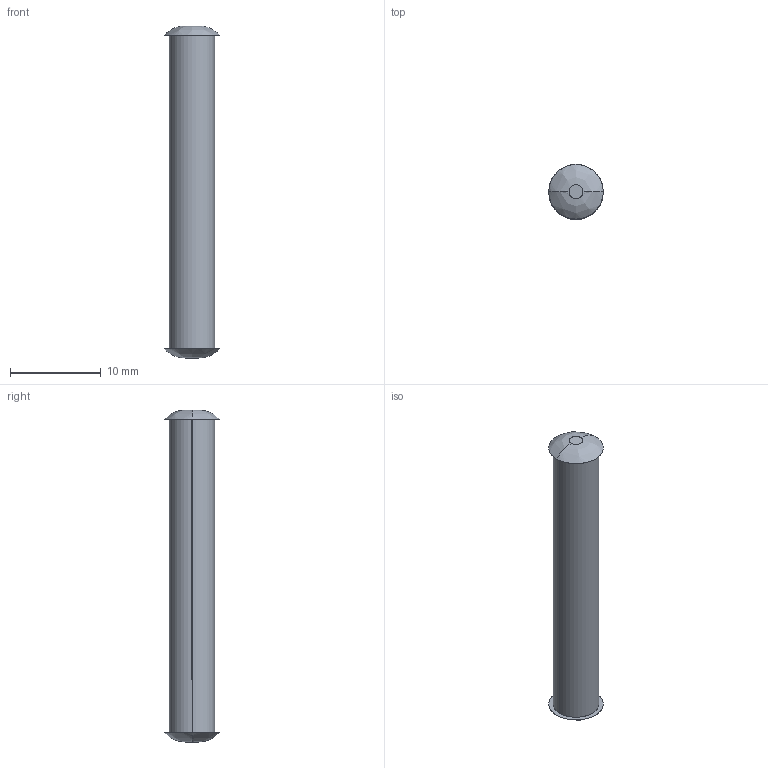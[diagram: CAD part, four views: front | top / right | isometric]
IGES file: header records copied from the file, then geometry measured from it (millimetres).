
Start section: SolidWorks IGES FILE using analytic representation for surfaces
Global section: file name: C:\Documents and Settings\lecoutey\Bureau\GP 47\49.040.10.IGS; native system: SolidWorks 2004 by SolidWorks Corporation; preprocessor: Version 5.3; author: lecoutey; date: 050329.145459; units: millimetre
Bounding box: 6 x 6 x 36.5 mm (x, y, z)
Surface area: 624.8 mm2 (no closed solid volume)
Topology: 0 solids, 0 shells, 10 faces, 184 edges, 184 vertices
Faces by surface type: bspline 8, revolution 2
